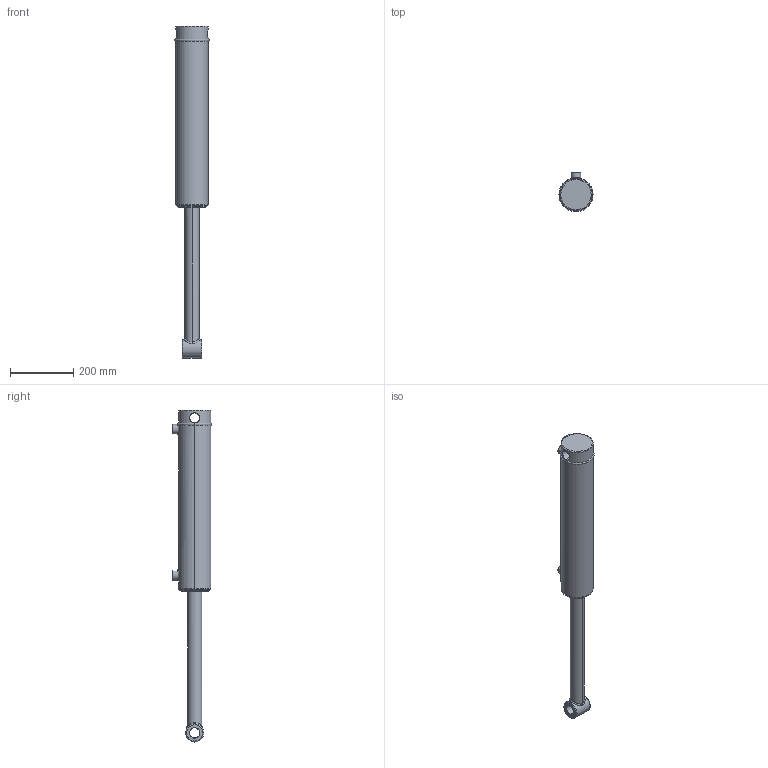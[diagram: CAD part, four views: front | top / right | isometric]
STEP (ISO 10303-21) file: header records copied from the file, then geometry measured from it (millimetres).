
FILE_DESCRIPTION (( 'STEP AP203' ), '1' );
FILE_NAME ('SB-C350175x406 (16) extended.STEP', '2015-04-01T02:49:19', ( '' ), ( '' ), 'SwSTEP 2.0', 'SolidWorks 2015', '' );
FILE_SCHEMA (( 'CONFIG_CONTROL_DESIGN' ));
Length unit declared in the file: millimetre
Products named in the file (6): spare 18; SB-C350175x406 (16) extended; SB-C350175x457 (18) BODY_16; 3.5 INCH CIRCLIP; SB-C350175x457 (18) BODY; 18 spare_16
Assembly tree (5 placements, depth 3):
  SB-C350175x406 (16) extended
    SB-C350175x457 (18) BODY
      SB-C350175x457 (18) BODY_16
      3.5 INCH CIRCLIP
    spare 18
      18 spare_16
Bounding box: 107.6 x 124.6 x 1046.58 mm (x, y, z)
Volume: 4903332.9 mm3; surface area: 360147.8 mm2
Topology: 3 solids, 3 shells, 114 faces, 269 edges, 167 vertices
Faces by surface type: cylinder 49, plane 23, bspline 22, cone 12, torus 8
Entity records: 13049 total; most frequent: CARTESIAN_POINT 9929, ORIENTED_EDGE 530, DIRECTION 518, EDGE_CURVE 265, AXIS2_PLACEMENT_3D 220, VERTEX_POINT 167, EDGE_LOOP 134, CIRCLE 118
